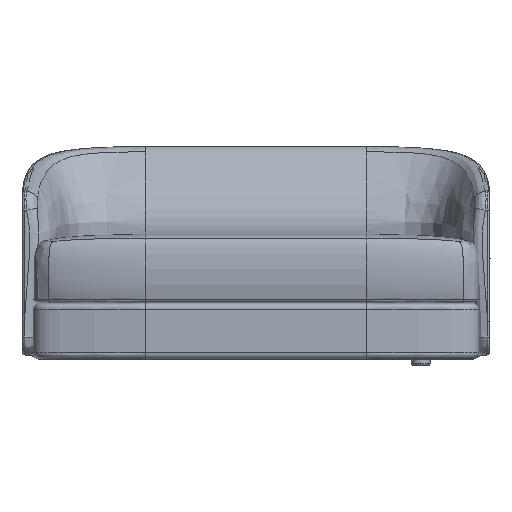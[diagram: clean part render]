
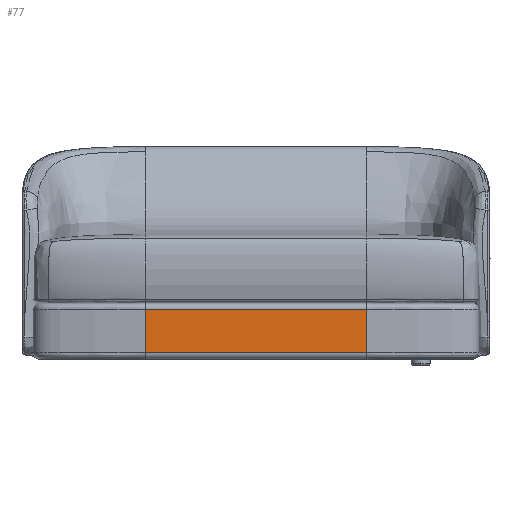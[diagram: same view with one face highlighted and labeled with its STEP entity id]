
A CAD part, front view. The second image highlights one B-rep face of the part: STEP entity #77.
In plain terms, the highlighted planar face has unit normal (0, -1, 0).
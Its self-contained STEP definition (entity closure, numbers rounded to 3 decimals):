
#77=ADVANCED_FACE('',(#191),#1661,.T.);
#191=FACE_OUTER_BOUND('',#305,.T.);
#305=EDGE_LOOP('',(#446,#447,#448,#449));
#446=ORIENTED_EDGE('',*,*,#908,.T.);
#447=ORIENTED_EDGE('',*,*,#896,.T.);
#448=ORIENTED_EDGE('',*,*,#948,.F.);
#449=ORIENTED_EDGE('',*,*,#903,.F.);
#896=EDGE_CURVE('',#1416,#1415,#1194,.T.);
#903=EDGE_CURVE('',#1417,#1414,#1197,.T.);
#908=EDGE_CURVE('',#1417,#1416,#1201,.T.);
#948=EDGE_CURVE('',#1414,#1415,#1224,.T.);
#1194=B_SPLINE_CURVE_WITH_KNOTS('',1,(#7631,#7632),.UNSPECIFIED.,.F.,.F.,
(2,2),(0.,712.634),.UNSPECIFIED.);
#1197=B_SPLINE_CURVE_WITH_KNOTS('',1,(#7647,#7648),.UNSPECIFIED.,.F.,.F.,
(2,2),(0.,712.634),.UNSPECIFIED.);
#1201=B_SPLINE_CURVE_WITH_KNOTS('',1,(#7895,#7896),.UNSPECIFIED.,.F.,.F.,
(2,2),(1455.772,1595.772),.UNSPECIFIED.);
#1224=B_SPLINE_CURVE_WITH_KNOTS('',1,(#9685,#9686),.UNSPECIFIED.,.F.,.F.,
(2,2),(1455.772,1595.772),.UNSPECIFIED.);
#1414=VERTEX_POINT('',#7599);
#1415=VERTEX_POINT('',#7600);
#1416=VERTEX_POINT('',#7601);
#1417=VERTEX_POINT('',#7602);
#1661=PLANE('',#1711);
#1711=AXIS2_PLACEMENT_3D('',#1828,#1729,$);
#1729=DIRECTION('',(0.,-1.,0.));
#1828=CARTESIAN_POINT('',(524.433,-99.481,40.265));
#7599=CARTESIAN_POINT('',(-188.201,-99.481,40.265));
#7600=CARTESIAN_POINT('',(-188.201,-99.481,180.265));
#7601=CARTESIAN_POINT('',(524.433,-99.481,180.265));
#7602=CARTESIAN_POINT('',(524.433,-99.481,40.265));
#7631=CARTESIAN_POINT('',(524.433,-99.481,180.265));
#7632=CARTESIAN_POINT('',(-188.201,-99.481,180.265));
#7647=CARTESIAN_POINT('',(524.433,-99.481,40.265));
#7648=CARTESIAN_POINT('',(-188.201,-99.481,40.265));
#7895=CARTESIAN_POINT('',(524.433,-99.481,40.265));
#7896=CARTESIAN_POINT('',(524.433,-99.481,180.265));
#9685=CARTESIAN_POINT('',(-188.201,-99.481,40.265));
#9686=CARTESIAN_POINT('',(-188.201,-99.481,180.265));
